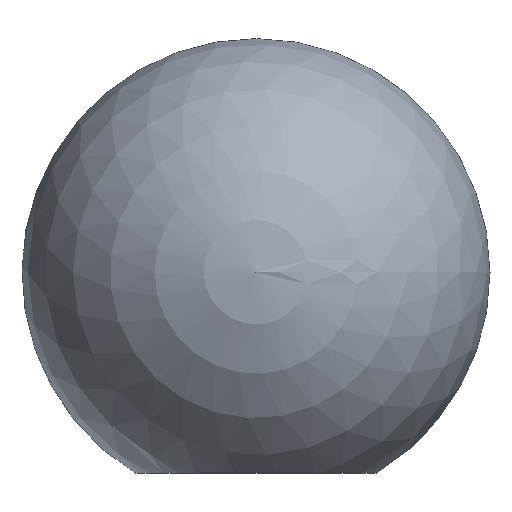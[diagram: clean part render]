
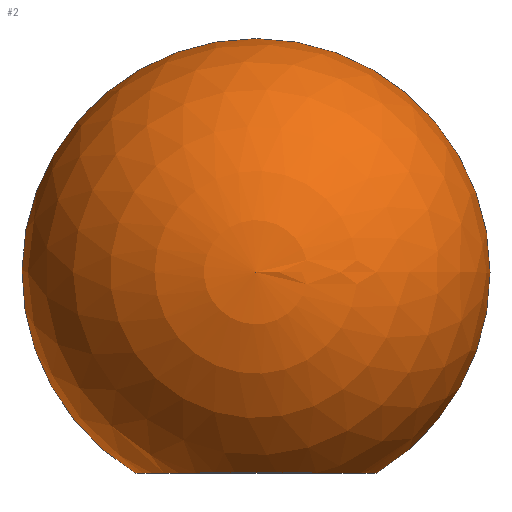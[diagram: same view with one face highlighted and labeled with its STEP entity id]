
A CAD part, top view. The second image highlights one B-rep face of the part: STEP entity #2.
In plain terms, the highlighted spherical face has radius 17.5 mm.
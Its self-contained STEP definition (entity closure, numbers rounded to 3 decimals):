
#2 = ADVANCED_FACE ( 'NONE', ( #93 ), #234, .T. ) ;
#14 = ORIENTED_EDGE ( 'NONE', *, *, #260, .T. ) ;
#48 = AXIS2_PLACEMENT_3D ( 'NONE', #51, #128, #277 ) ;
#51 = CARTESIAN_POINT ( 'NONE',  ( 0., 15., 0. ) ) ;
#71 = CIRCLE ( 'NONE', #317, 17.5 ) ;
#73 = DIRECTION ( 'NONE',  ( 1., 0., 0. ) ) ;
#90 = CARTESIAN_POINT ( 'NONE',  ( 0., 15., 0. ) ) ;
#93 = FACE_OUTER_BOUND ( 'NONE', #238, .T. ) ;
#100 = ORIENTED_EDGE ( 'NONE', *, *, #177, .F. ) ;
#114 = DIRECTION ( 'NONE',  ( 0., -1., 0. ) ) ;
#124 = CIRCLE ( 'NONE', #48, 17.5 ) ;
#128 = DIRECTION ( 'NONE',  ( 0., 0., -1. ) ) ;
#158 = CARTESIAN_POINT ( 'NONE',  ( -9.014, 0., 0. ) ) ;
#177 = EDGE_CURVE ( 'NONE', #349, #232, #252, .T. ) ;
#181 = CARTESIAN_POINT ( 'NONE',  ( 0., 15., 0. ) ) ;
#188 = DIRECTION ( 'NONE',  ( 1., 0., 0. ) ) ;
#194 = CARTESIAN_POINT ( 'NONE',  ( 0., 32.5, 0. ) ) ;
#197 = VERTEX_POINT ( 'NONE', #194 ) ;
#207 = ORIENTED_EDGE ( 'NONE', *, *, #235, .F. ) ;
#211 = DIRECTION ( 'NONE',  ( 0., 0., -1. ) ) ;
#232 = VERTEX_POINT ( 'NONE', #158 ) ;
#234 = SPHERICAL_SURFACE ( 'NONE', #251, 17.5 ) ;
#235 = EDGE_CURVE ( 'NONE', #197, #349, #124, .T. ) ;
#238 = EDGE_LOOP ( 'NONE', ( #207, #14, #100 ) ) ;
#247 = DIRECTION ( 'NONE',  ( 0., 0., 1. ) ) ;
#251 = AXIS2_PLACEMENT_3D ( 'NONE', #90, #290, #73 ) ;
#252 = CIRCLE ( 'NONE', #308, 9.014 ) ;
#260 = EDGE_CURVE ( 'NONE', #197, #232, #71, .T. ) ;
#273 = CARTESIAN_POINT ( 'NONE',  ( 0., 0., 0. ) ) ;
#277 = DIRECTION ( 'NONE',  ( -1., 0., 0. ) ) ;
#290 = DIRECTION ( 'NONE',  ( 0., 0., 1. ) ) ;
#308 = AXIS2_PLACEMENT_3D ( 'NONE', #273, #114, #211 ) ;
#317 = AXIS2_PLACEMENT_3D ( 'NONE', #181, #247, #188 ) ;
#330 = CARTESIAN_POINT ( 'NONE',  ( 9.014, 0., 0. ) ) ;
#349 = VERTEX_POINT ( 'NONE', #330 ) ;
